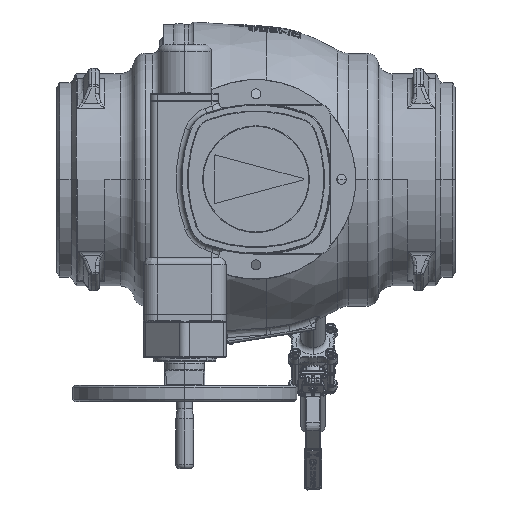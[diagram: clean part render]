
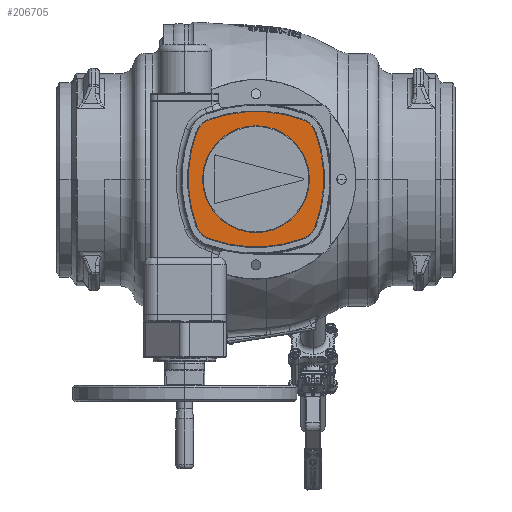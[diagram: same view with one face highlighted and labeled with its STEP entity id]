
A CAD part, top view. The second image highlights one B-rep face of the part: STEP entity #206705.
In plain terms, the highlighted planar face has unit normal (0, 0, 1).
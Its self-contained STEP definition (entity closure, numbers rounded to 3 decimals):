
#193997=CARTESIAN_POINT('',(0.,-95.,170.));
#193998=DIRECTION('',(0.,0.,-1.));
#193999=DIRECTION('',(-0.345,0.939,0.));
#194000=AXIS2_PLACEMENT_3D('',#193997,#193998,#193999);
#194011=CARTESIAN_POINT('',(55.183,55.183,170.));
#194012=DIRECTION('',(0.,0.,1.));
#194013=DIRECTION('',(0.939,0.345,0.));
#194014=AXIS2_PLACEMENT_3D('',#194011,#194012,#194013);
#194025=CARTESIAN_POINT('',(-95.,0.,170.));
#194026=DIRECTION('',(0.,0.,-1.));
#194027=DIRECTION('',(0.939,0.345,0.));
#194028=AXIS2_PLACEMENT_3D('',#194025,#194026,#194027);
#194039=CARTESIAN_POINT('',(55.183,-55.183,170.));
#194040=DIRECTION('',(0.,0.,1.));
#194041=DIRECTION('',(0.345,-0.939,0.));
#194042=AXIS2_PLACEMENT_3D('',#194039,#194040,#194041);
#194053=CARTESIAN_POINT('',(0.,95.,170.));
#194054=DIRECTION('',(0.,0.,-1.));
#194055=DIRECTION('',(0.345,-0.939,0.));
#194056=AXIS2_PLACEMENT_3D('',#194053,#194054,#194055);
#194067=CARTESIAN_POINT('',(-55.183,-55.183,170.));
#194068=DIRECTION('',(0.,0.,1.));
#194069=DIRECTION('',(-0.939,-0.345,0.));
#194070=AXIS2_PLACEMENT_3D('',#194067,#194068,#194069);
#194081=CARTESIAN_POINT('',(95.,0.,170.));
#194082=DIRECTION('',(0.,0.,-1.));
#194083=DIRECTION('',(-0.939,-0.345,0.));
#194084=AXIS2_PLACEMENT_3D('',#194081,#194082,#194083);
#194095=CARTESIAN_POINT('',(-55.183,55.183,170.));
#194096=DIRECTION('',(0.,0.,1.));
#194097=DIRECTION('',(-0.345,0.939,0.));
#194098=AXIS2_PLACEMENT_3D('',#194095,#194096,#194097);
#194100=CARTESIAN_POINT('',(0.,0.,170.));
#194101=DIRECTION('',(0.,0.,1.));
#194102=DIRECTION('',(-1.,0.,0.));
#194103=AXIS2_PLACEMENT_3D('',#194100,#194101,#194102);
#194105=CARTESIAN_POINT('',(0.,0.,170.));
#194106=DIRECTION('',(0.,0.,1.));
#194107=DIRECTION('',(1.,0.,0.));
#194108=AXIS2_PLACEMENT_3D('',#194105,#194106,#194107);
#199956=CARTESIAN_POINT('',(-75.,0.,170.));
#199957=CARTESIAN_POINT('',(75.,0.,170.));
#199958=VERTEX_POINT('',#199956);
#199959=VERTEX_POINT('',#199957);
#199960=CARTESIAN_POINT('',(65.53,-83.342,170.));
#199961=CARTESIAN_POINT('',(83.342,-65.53,170.));
#199962=VERTEX_POINT('',#199960);
#199963=VERTEX_POINT('',#199961);
#199964=CARTESIAN_POINT('',(83.342,65.53,170.));
#199965=VERTEX_POINT('',#199964);
#199966=CARTESIAN_POINT('',(65.53,83.342,170.));
#199967=VERTEX_POINT('',#199966);
#199968=CARTESIAN_POINT('',(-65.53,83.342,170.));
#199969=VERTEX_POINT('',#199968);
#199970=CARTESIAN_POINT('',(-83.342,65.53,170.));
#199971=VERTEX_POINT('',#199970);
#199972=CARTESIAN_POINT('',(-83.342,-65.53,170.));
#199973=VERTEX_POINT('',#199972);
#199974=CARTESIAN_POINT('',(-65.53,-83.342,170.));
#199975=VERTEX_POINT('',#199974);
#206684=CARTESIAN_POINT('',(0.,0.,170.));
#206685=DIRECTION('',(0.,0.,1.));
#206686=DIRECTION('',(1.,0.,0.));
#206687=AXIS2_PLACEMENT_3D('',#206684,#206685,#206686);
#206688=PLANE('',#206687);
#206689=ORIENTED_EDGE('',*,*,#206623,.F.);
#206690=ORIENTED_EDGE('',*,*,#206637,.T.);
#206691=ORIENTED_EDGE('',*,*,#206651,.F.);
#206692=ORIENTED_EDGE('',*,*,#206665,.T.);
#206693=ORIENTED_EDGE('',*,*,#206678,.F.);
#206694=ORIENTED_EDGE('',*,*,#206580,.T.);
#206695=ORIENTED_EDGE('',*,*,#206595,.F.);
#206696=ORIENTED_EDGE('',*,*,#206609,.T.);
#206697=EDGE_LOOP('',(#206689,#206690,#206691,#206692,#206693,#206694,#206695,
#206696));
#206698=FACE_OUTER_BOUND('',#206697,.F.);
#206700=ORIENTED_EDGE('',*,*,#206699,.T.);
#206702=ORIENTED_EDGE('',*,*,#206701,.T.);
#206703=EDGE_LOOP('',(#206700,#206702));
#206704=FACE_BOUND('',#206703,.F.);
#206705=ADVANCED_FACE('',(#206698,#206704),#206688,.T.);
#194001=CIRCLE('',#194000,190.);
#194015=CIRCLE('',#194014,30.);
#194029=CIRCLE('',#194028,190.);
#194043=CIRCLE('',#194042,30.);
#194057=CIRCLE('',#194056,190.);
#194071=CIRCLE('',#194070,30.);
#194085=CIRCLE('',#194084,190.);
#194099=CIRCLE('',#194098,30.);
#194104=CIRCLE('',#194103,75.);
#194109=CIRCLE('',#194108,75.);
#206580=EDGE_CURVE('',#199969,#199967,#194001,.T.);
#206595=EDGE_CURVE('',#199965,#199967,#194015,.T.);
#206609=EDGE_CURVE('',#199965,#199963,#194029,.T.);
#206623=EDGE_CURVE('',#199962,#199963,#194043,.T.);
#206637=EDGE_CURVE('',#199962,#199975,#194057,.T.);
#206651=EDGE_CURVE('',#199973,#199975,#194071,.T.);
#206665=EDGE_CURVE('',#199973,#199971,#194085,.T.);
#206678=EDGE_CURVE('',#199969,#199971,#194099,.T.);
#206699=EDGE_CURVE('',#199958,#199959,#194104,.T.);
#206701=EDGE_CURVE('',#199959,#199958,#194109,.T.);
